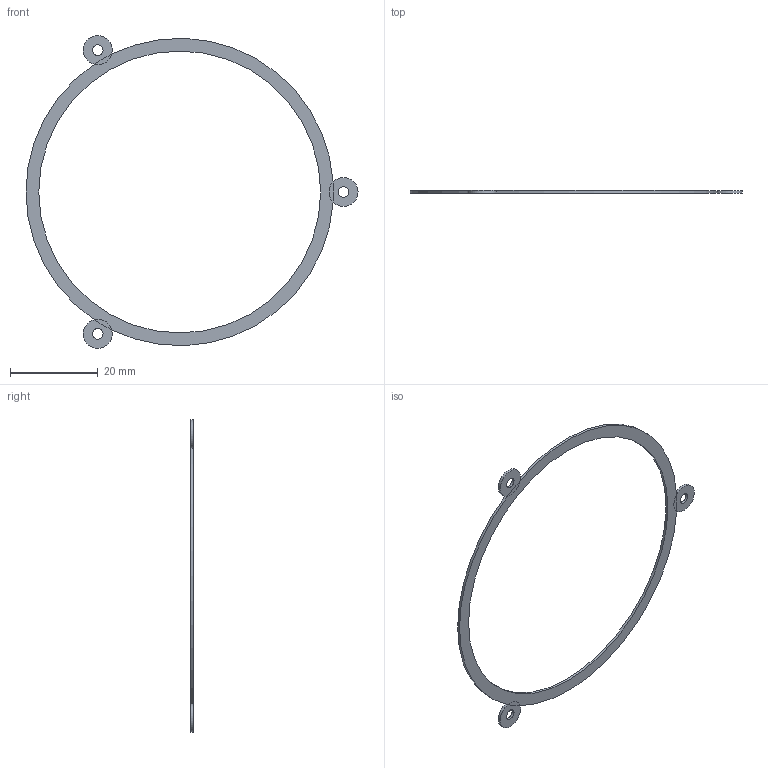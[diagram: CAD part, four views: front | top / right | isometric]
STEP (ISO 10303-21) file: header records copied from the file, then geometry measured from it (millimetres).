
FILE_DESCRIPTION(/* description */ ('Separate three-screw clamp on the PCB outer edge. Central opening clears every modeled LED package; no adhesive needed. M2 x6 prototype fasteners.'),/* implementation_level */ '2;1');
FILE_NAME(/* name */ '24 Removable LED retaining ring.step',/* time_stamp */ '2026-10-02T18:55:11+01:00',/* author */ (''),/* organization */ (''),/* preprocessor_version */ 'ST-DEVELOPER v20.2',/* originating_system */ 'Autodesk Translation Framework v15.15.0.0',/* authorisation */ '');
FILE_SCHEMA (('AUTOMOTIVE_DESIGN { 1 0 10303 214 3 1 1 }'));
Length unit declared in the file: millimetre
Products named in the file (1): 2026-10-02-18-55-11-112
Bounding box: 75.6 x 0.6 x 71.2 mm (x, y, z)
Volume: 414.6 mm3; surface area: 1668.4 mm2
Topology: 1 solids, 1 shells, 24 faces, 42 edges, 20 vertices
Faces by surface type: plane 14, cylinder 10
Full cylindrical faces by diameter (mm): 2.4 x3, 64.2 x1
Entity records: 622 total; most frequent: DIRECTION 124, CARTESIAN_POINT 87, ORIENTED_EDGE 84, AXIS2_PLACEMENT_3D 57, EDGE_CURVE 42, EDGE_LOOP 32, CIRCLE 32, FACE_OUTER_BOUND 24
